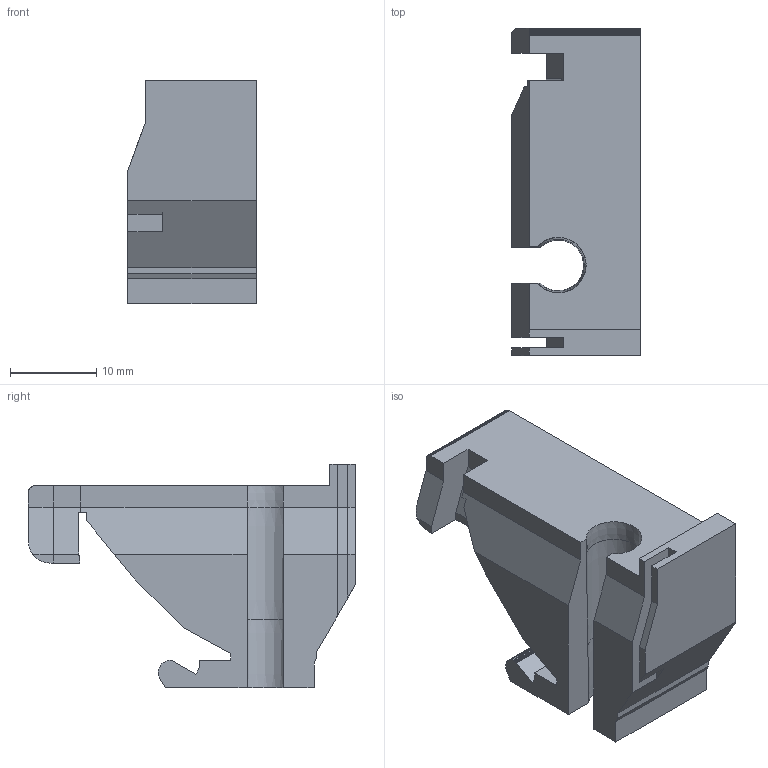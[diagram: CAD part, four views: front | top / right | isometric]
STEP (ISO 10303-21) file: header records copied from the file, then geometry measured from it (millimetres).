
FILE_DESCRIPTION(('Open CASCADE Model'),'2;1');
FILE_NAME('Open CASCADE Shape Model','2026-10-24T07:19:13',('Author'),( 'Open CASCADE'),'Open CASCADE STEP processor 8.0','build123d', 'Unknown');
FILE_SCHEMA(('AUTOMOTIVE_DESIGN { 1 0 10303 214 1 1 1 1 }'));
Length unit declared in the file: millimetre
Products named in the file (1): SOLID
Bounding box: 14.9 x 38 x 26 mm (x, y, z)
Volume: 7513.8 mm3; surface area: 3659.5 mm2
Topology: 1 solids, 1 shells, 101 faces, 297 edges, 198 vertices
Faces by surface type: plane 96, cone 3, bspline 2
Entity records: 6793 total; most frequent: CARTESIAN_POINT 1890, ORIENTED_EDGE 594, PCURVE 594, DEFINITIONAL_REPRESENTATION 594, DIRECTION 562, B_SPLINE_CURVE_WITH_KNOTS 533, LINE 352, VECTOR 352
